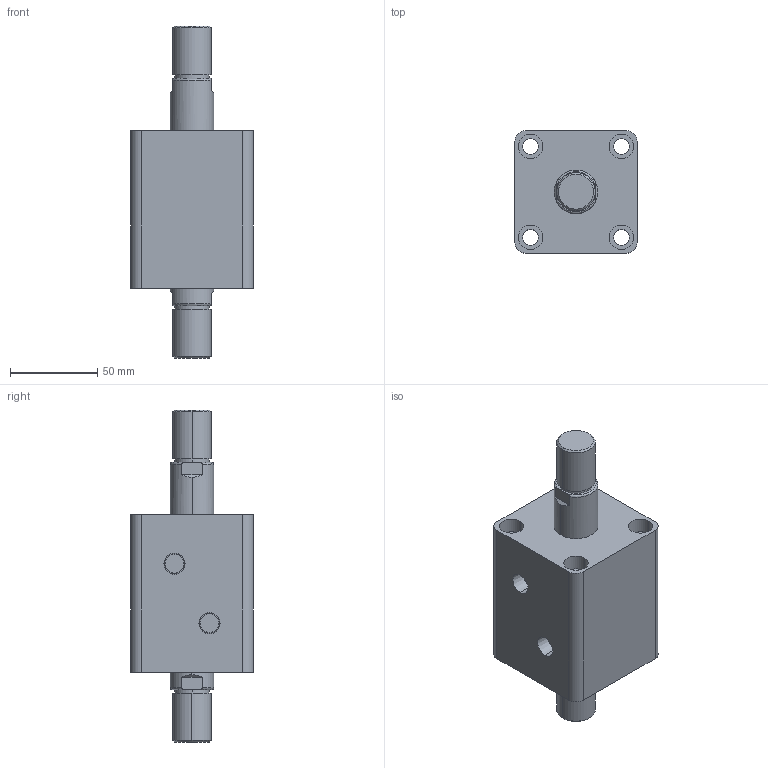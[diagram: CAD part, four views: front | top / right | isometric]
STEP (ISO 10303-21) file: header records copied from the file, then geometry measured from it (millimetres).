
FILE_DESCRIPTION (( 'STEP AP203' ), '1' );
FILE_NAME ('HTB-SW40-20W.STEP', '2019-10-07T09:06:05', ( '微软用户' ), ( '微软中国' ), 'SwSTEP 2.0', 'SolidWorks 2012', '' );
FILE_SCHEMA (( 'CONFIG_CONTROL_DESIGN' ));
Length unit declared in the file: millimetre
Products named in the file (3): HTB-SW40-20W; HTB-SW40-20W活塞杆; HTB-SW40-20掛极
Assembly tree (2 placements, depth 2):
  HTB-SW40-20W
    HTB-SW40-20掛极
    HTB-SW40-20W活塞杆
Bounding box: 70 x 70 x 190 mm (x, y, z)
Volume: 433182.5 mm3; surface area: 72472.1 mm2
Topology: 2 solids, 2 shells, 108 faces, 240 edges, 156 vertices
Faces by surface type: cylinder 52, plane 36, torus 12, cone 8
Entity records: 3449 total; most frequent: CARTESIAN_POINT 629, DIRECTION 586, ORIENTED_EDGE 480, AXIS2_PLACEMENT_3D 249, EDGE_CURVE 240, VERTEX_POINT 156, EDGE_LOOP 138, CIRCLE 136
